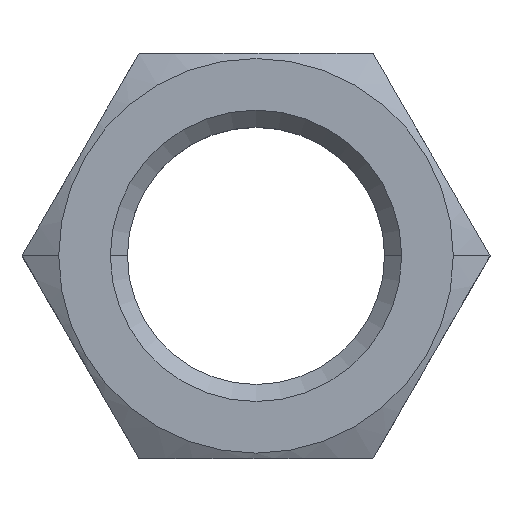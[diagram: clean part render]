
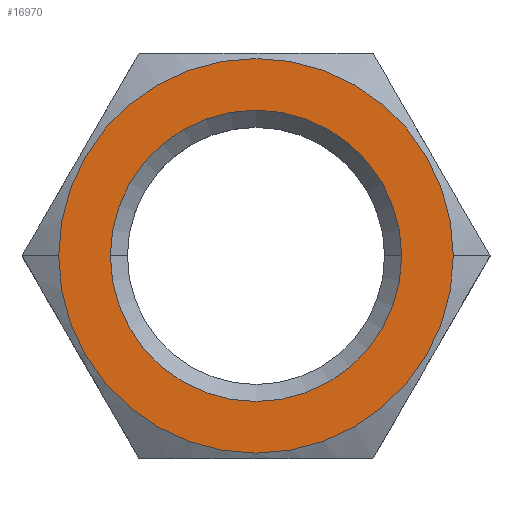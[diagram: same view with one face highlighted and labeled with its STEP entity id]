
A CAD part, top view. The second image highlights one B-rep face of the part: STEP entity #16970.
In plain terms, the highlighted planar face has unit normal (0, 0, 1) as drawn and (0, -1, 0) by its records, which use the part's own axes.
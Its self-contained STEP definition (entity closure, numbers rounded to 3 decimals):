
#16470=CARTESIAN_POINT('',(-8.85,-21.,0.));
#16480=VERTEX_POINT('',#16470);
#16510=CARTESIAN_POINT('',(9.65,-21.,0.));
#16520=DIRECTION('',(0.,1.,0.));
#16530=DIRECTION('',(1.,0.,0.));
#16540=AXIS2_PLACEMENT_3D('',#16510,#16520,#16530);
#16550=CIRCLE('',#16540,18.5);
#16560=CARTESIAN_POINT('',(28.15,-21.,0.));
#16570=VERTEX_POINT('',#16560);
#16580=EDGE_CURVE('',#16570,#16480,#16550,.T.);
#16720=CARTESIAN_POINT('',(-28.5,-21.,-51.877));
#16730=DIRECTION('',(0.,-1.,0.));
#16740=DIRECTION('',(1.,0.,0.));
#16750=AXIS2_PLACEMENT_3D('',#16720,#16730,#16740);
#16760=PLANE('',#16750);
#16770=CARTESIAN_POINT('',(9.65,-21.,0.));
#16780=DIRECTION('',(0.,-1.,0.));
#16790=DIRECTION('',(1.,0.,0.));
#16800=AXIS2_PLACEMENT_3D('',#16770,#16780,#16790);
#16810=CIRCLE('',#16800,13.659);
#16820=CARTESIAN_POINT('',(23.309,-21.,0.));
#16830=VERTEX_POINT('',#16820);
#16840=CARTESIAN_POINT('',(-4.009,-21.,0.))
;
#16850=VERTEX_POINT('',#16840);
#16860=EDGE_CURVE('',#16830,#16850,#16810,.T.);
#16870=ORIENTED_EDGE('',*,*,#16860,.F.);
#16880=EDGE_CURVE('',#16850,#16830,#16810,.T.);
#16890=ORIENTED_EDGE('',*,*,#16880,.F.);
#16900=EDGE_LOOP('',(#16890,#16870));
#16910=FACE_BOUND('',#16900,.T.);
#16920=EDGE_CURVE('',#16480,#16570,#16550,.T.);
#16930=ORIENTED_EDGE('',*,*,#16920,.F.);
#16940=ORIENTED_EDGE('',*,*,#16580,.F.);
#16950=EDGE_LOOP('',(#16940,#16930));
#16960=FACE_OUTER_BOUND('',#16950,.T.);
#16970=ADVANCED_FACE('',(#16910,#16960),#16760,.T.);
